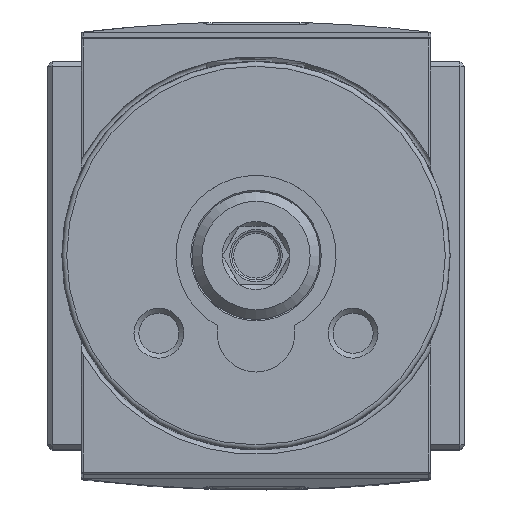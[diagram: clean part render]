
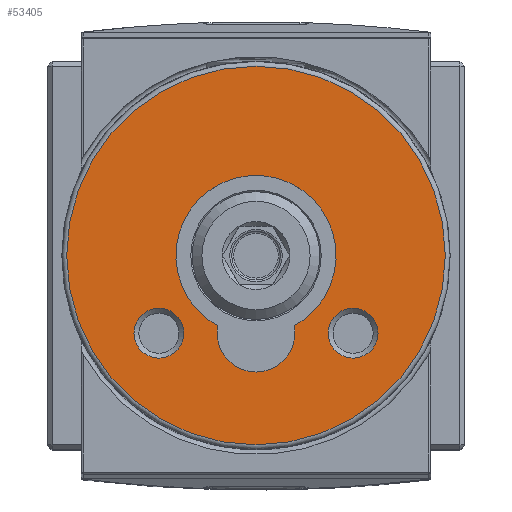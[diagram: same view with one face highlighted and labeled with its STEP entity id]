
A CAD part, top view. The second image highlights one B-rep face of the part: STEP entity #53405.
In plain terms, the highlighted planar face has unit normal (0, 0, 1).
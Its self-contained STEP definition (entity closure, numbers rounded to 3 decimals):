
#622=FACE_BOUND('',#10033,.T.);
#623=FACE_BOUND('',#10034,.T.);
#624=FACE_BOUND('',#10035,.T.);
#7021=FACE_OUTER_BOUND('',#10032,.T.);
#10032=EDGE_LOOP('',(#36859));
#10033=EDGE_LOOP('',(#36860));
#10034=EDGE_LOOP('',(#36861,#36862,#36863,#36864));
#10035=EDGE_LOOP('',(#36865));
#13233=CIRCLE('',#56569,8.25);
#13235=CIRCLE('',#56573,4.);
#13238=CIRCLE('',#56579,2.567);
#13241=CIRCLE('',#56584,2.567);
#13243=CIRCLE('',#56589,19.5);
#15197=LINE('',#75652,#19307);
#15200=LINE('',#75661,#19310);
#19307=VECTOR('',#61518,10.);
#19310=VECTOR('',#61529,10.);
#23556=VERTEX_POINT('',#75642);
#23557=VERTEX_POINT('',#75644);
#23559=VERTEX_POINT('',#75650);
#23561=VERTEX_POINT('',#75656);
#23564=VERTEX_POINT('',#75669);
#23567=VERTEX_POINT('',#75679);
#23569=VERTEX_POINT('',#75688);
#28701=EDGE_CURVE('',#23557,#23556,#13233,.T.);
#28705=EDGE_CURVE('',#23556,#23559,#15197,.T.);
#28708=EDGE_CURVE('',#23559,#23561,#13235,.T.);
#28710=EDGE_CURVE('',#23561,#23557,#15200,.T.);
#28714=EDGE_CURVE('',#23564,#23564,#13238,.T.);
#28719=EDGE_CURVE('',#23567,#23567,#13241,.T.);
#28723=EDGE_CURVE('',#23569,#23569,#13243,.T.);
#36859=ORIENTED_EDGE('',*,*,#28723,.F.);
#36860=ORIENTED_EDGE('',*,*,#28719,.F.);
#36861=ORIENTED_EDGE('',*,*,#28710,.T.);
#36862=ORIENTED_EDGE('',*,*,#28701,.T.);
#36863=ORIENTED_EDGE('',*,*,#28705,.T.);
#36864=ORIENTED_EDGE('',*,*,#28708,.T.);
#36865=ORIENTED_EDGE('',*,*,#28714,.F.);
#52118=PLANE('',#56588);
#53405=ADVANCED_FACE('',(#7021,#622,#623,#624),#52118,.F.);
#56569=AXIS2_PLACEMENT_3D('',#75645,#61511,#61512);
#56573=AXIS2_PLACEMENT_3D('',#75658,#61524,#61525);
#56579=AXIS2_PLACEMENT_3D('',#75670,#61539,#61540);
#56584=AXIS2_PLACEMENT_3D('',#75680,#61551,#61552);
#56588=AXIS2_PLACEMENT_3D('',#75687,#61561,#61562);
#56589=AXIS2_PLACEMENT_3D('',#75689,#61563,#61564);
#61511=DIRECTION('center_axis',(0.,0.,-1.));
#61512=DIRECTION('ref_axis',(0.485,-0.875,0.));
#61518=DIRECTION('',(0.,-1.,0.));
#61524=DIRECTION('center_axis',(0.,0.,-1.));
#61525=DIRECTION('ref_axis',(-1.,0.,0.));
#61529=DIRECTION('',(0.,1.,0.));
#61539=DIRECTION('center_axis',(0.,0.,1.));
#61540=DIRECTION('ref_axis',(1.,0.,0.));
#61551=DIRECTION('center_axis',(0.,0.,1.));
#61552=DIRECTION('ref_axis',(1.,0.,0.));
#61561=DIRECTION('center_axis',(0.,0.,-1.));
#61562=DIRECTION('ref_axis',(1.,0.,0.));
#61563=DIRECTION('center_axis',(0.,0.,-1.));
#61564=DIRECTION('ref_axis',(1.,0.,0.));
#75642=CARTESIAN_POINT('',(4.,-7.215,28.5));
#75644=CARTESIAN_POINT('',(-4.,-7.215,28.5));
#75645=CARTESIAN_POINT('Origin',(0.,0.,28.5));
#75650=CARTESIAN_POINT('',(4.,-8.,28.5));
#75652=CARTESIAN_POINT('',(4.,-4.,28.5));
#75656=CARTESIAN_POINT('',(-4.,-8.,28.5));
#75658=CARTESIAN_POINT('Origin',(0.,-8.,
28.5));
#75661=CARTESIAN_POINT('',(-4.,-3.608,28.5));
#75669=CARTESIAN_POINT('',(-12.567,-8.,28.5));
#75670=CARTESIAN_POINT('Origin',(-10.,-8.,28.5));
#75679=CARTESIAN_POINT('',(7.433,-8.,28.5));
#75680=CARTESIAN_POINT('Origin',(10.,-8.,28.5));
#75687=CARTESIAN_POINT('Origin',(0.,0.,28.5));
#75688=CARTESIAN_POINT('',(-19.5,0.,28.5));
#75689=CARTESIAN_POINT('Origin',(0.,0.,28.5));
